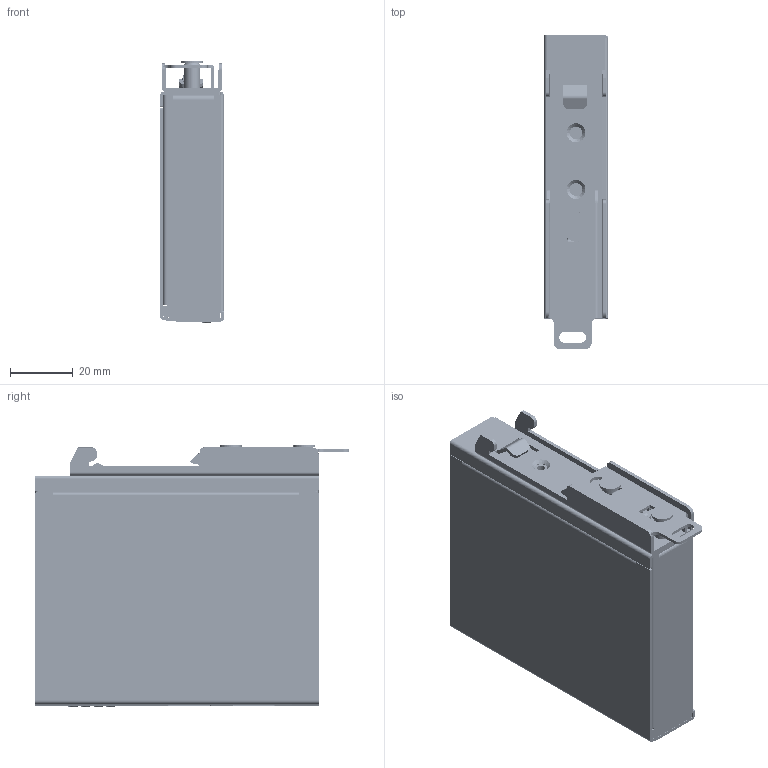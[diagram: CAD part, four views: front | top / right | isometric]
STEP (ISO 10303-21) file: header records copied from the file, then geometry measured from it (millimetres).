
FILE_DESCRIPTION((''),'2;1');
FILE_NAME('00000_NAT-102_DEVICE_ASSY_ASM','2021-11-15T15:40:02',('YoungMH_Yang'),('PTC'),'CREO PARAMETRIC BY PTC INC, 2018020','CREO PARAMETRIC BY PTC INC, 2018020','');
FILE_SCHEMA(('AUTOMOTIVE_DESIGN { 1 0 10303 214 1 1 1 1 }'));
Products named in the file (40): 000_NAT-102_2PORTS_ALLASSY_SKEL; 0_NAT-102_2PORTS_PCB_DUMMY; DINKLE_0225-2602L; NONE_1_1; NONE_1_2; NONE_1_3; NONE_1_4; NONE_1_5; NONE_1_6; NONE_1_ASM; WXXX-XX-0053_REV_1___ASM; 1106521000113; RS6-XX-XXXX; TAFG1-12WQR_RESET_ASM_ASM; IEF_G9010_TYPEC_0S02_NEW; 00_NAT-102_2PORTS_PCBA_REF_ASM; NAT-102_MAIN_0911PM6_1_ASM; NAT-102_PCB_TOP_0911; NAT-102_MAIN_0911PM6_ASM; 000_NAT-102_2PORTS_PCBA_ALLASSY_ASM; 0_NAT-102_2P_TOPCVR_PRES_EXTREM; 0_NAT-102_2P_RUBBER; 0_NAT-102_LIGHT_GUIDE; 0_NAT-102_2P_TOPCVR_PRES_EXTREM_ASM; 0_NAT-102_2P_BOTCVR_PRES_EXTREM; M3-NUT; M3-OD4-SOO-L3; M2_5X4_7_BSO_OD4_2; M2_5X4_7_BSO_OD4_2_STEP; 0_NAT-102_2P_BOTCVR3_PRES_EXTRE; 0_NAT-102_2P_BOTCVR_PRES_EXTREM_ASM; 00_NAT-102_2P_SHEET_EXTREME_ASM; IEG_G102_DIN_RAIL_BOT; IEG_G102_DK_SPRING; IEG_G102_DIN_RAIL_TOP; IEG_G102_M3-BSO-L9-1; IEG_G102_W19MM_DIN_RAIL_KIT_ASM; 000_NAT-102_2PORTS_MECH_ALLASSY_ASM; 0000_NAT-102_2PORTS_ALLASSY_ASM; 00000_NAT-102_DEVICE_ASSY_ASM
Assembly tree (53 placements, depth 7):
  00000_NAT-102_DEVICE_ASSY_ASM
    0000_NAT-102_2PORTS_ALLASSY_ASM
      000_NAT-102_2PORTS_ALLASSY_SKEL
      000_NAT-102_2PORTS_PCBA_ALLASSY_ASM
        0_NAT-102_2PORTS_PCB_DUMMY
        00_NAT-102_2PORTS_PCBA_REF_ASM
          DINKLE_0225-2602L
          WXXX-XX-0053_REV_1___ASM
            NONE_1_ASM
              NONE_1_1
              NONE_1_2
              NONE_1_3
              NONE_1_4
              NONE_1_5
              NONE_1_6
          1106521000113  x4
          RS6-XX-XXXX  x2
          TAFG1-12WQR_RESET_ASM_ASM
          IEF_G9010_TYPEC_0S02_NEW
        NAT-102_MAIN_0911PM6_ASM
          NAT-102_MAIN_0911PM6_1_ASM
          NAT-102_PCB_TOP_0911
      000_NAT-102_2PORTS_MECH_ALLASSY_ASM
        00_NAT-102_2P_SHEET_EXTREME_ASM
          0_NAT-102_2P_TOPCVR_PRES_EXTREM_ASM
            0_NAT-102_2P_TOPCVR_PRES_EXTREM
            0_NAT-102_2P_RUBBER
            0_NAT-102_LIGHT_GUIDE  x4
          0_NAT-102_2P_BOTCVR_PRES_EXTREM
          0_NAT-102_2P_BOTCVR_PRES_EXTREM_ASM
            M3-NUT  x3
            M3-OD4-SOO-L3
            M2_5X4_7_BSO_OD4_2  x4
            M2_5X4_7_BSO_OD4_2_STEP  x2
            0_NAT-102_2P_BOTCVR3_PRES_EXTRE
        IEG_G102_W19MM_DIN_RAIL_KIT_ASM
          IEG_G102_DIN_RAIL_BOT
          IEG_G102_DK_SPRING
          IEG_G102_DIN_RAIL_TOP
          IEG_G102_M3-BSO-L9-1  x2
Bounding box: 20.2 x 100 x 83.3 mm (x, y, z)
Volume: 45603.5 mm3; surface area: 101957.5 mm2
Topology: 72 solids, 140 shells, 12106 faces, 33113 edges, 21011 vertices
Faces by surface type: plane 8624, cylinder 2896, bspline 266, cone 148, sphere 106, torus 62, revolution 4
Entity records: 305967 total; most frequent: CARTESIAN_POINT 59064, ORIENTED_EDGE 46586, DIRECTION 43610, EDGE_CURVE 23350, VECTOR 18412, LINE 18412, VERTEX_POINT 14922, AXIS2_PLACEMENT_3D 12597
